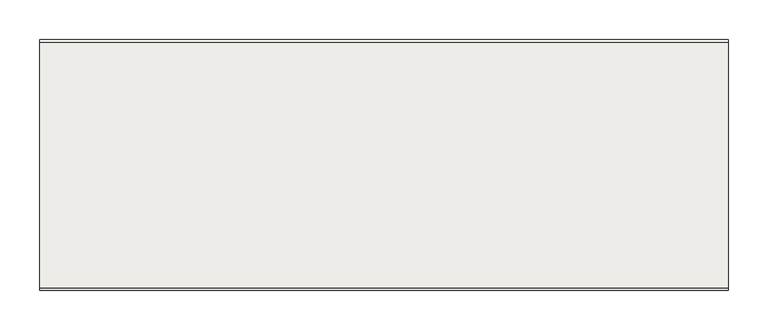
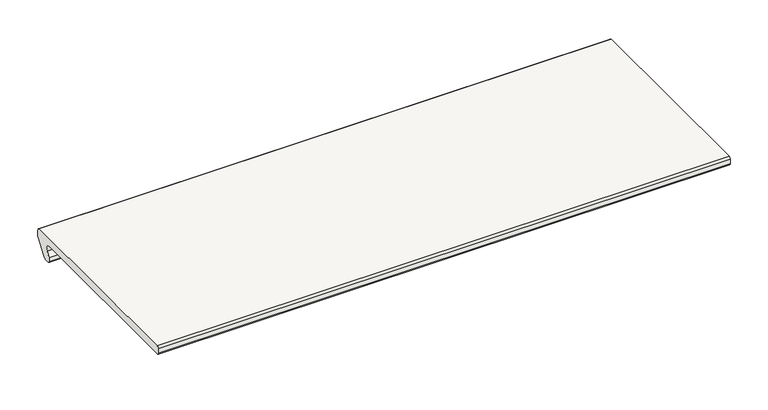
"""IFC4 building model written with IfcOpenShell, lengths in millimetres: slab geometry, ROSA GRES_J62 : Pieza J62_Tresor_Java_Anti-Slip."""

from ifc_helpers import new_model, si_unit, frame, origin, place, context, project, spatial, polyline, circle_curve, source, transform, mapped, element, save
from ifc_brep_helpers import plane_surface, cylinder_surface, revolved_surface, advanced_brep


def slab_21f2066a(model_context):
    return source(origin(), model_context, "Body", "AdvancedBrep", [
        advanced_brep(
        [(869.4769432, -317.0, 2.5), (869.4769432, -314.5, 0.0), (869.4769432, -29.6363327, 0.0), (869.4769432, -24.5931401, -10.7276172), (869.4769432, -29.4411632, -18.2354274), (869.4769432, -29.4411632, -24.4017055), (869.4769432, -26.7240304, -27.1188383), (869.4769432, -20.3835268, -27.1188383), (869.4769432, -19.4823107, -26.1230058), (869.4769432, -18.5721049, -25.1262743), (869.4769432, -17.666394, -25.1262743), (869.4769432, -14.760096, -23.1626329), (869.4769432, -0.7963935, -2.84429), (869.4769432, 0.0, -0.2793766), (869.4769432, 0.0, 8.2984975), (869.4769432, -3.9876034, 12.7946269), (869.4769432, -314.2818333, 12.7946269), (869.4769432, -316.9989661, 10.0774941), (0.0, -317.0, 2.5), (0.0, -317.0, 10.0774941), (0.0, -314.2818333, 12.7946269), (0.0, -3.9876034, 12.7946269), (0.0, 0.0, 8.2984975), (0.0, 0.0, -0.2793766), (0.0, -0.7963935, -2.84429), (0.0, -14.760096, -23.1626329), (0.0, -17.666394, -25.1262743), (0.0, -18.5721049, -25.1262743), (0.0, -19.473321, -26.1221068), (0.0, -20.3835268, -27.1188383), (0.0, -26.7240304, -27.1188383), (0.0, -29.4411632, -24.4017055), (0.0, -29.4411632, -18.2354274), (0.0, -24.5931401, -10.7276172), (0.0, -29.6363327, 0.0), (0.0, -314.5, 0.0)],
        [
            (0, 1, circle_curve(frame((869.4769432, -314.5, 2.5), z_axis=(1.0, 0.0, 0.0), x_axis=(0.0, -1.0, 0.0)), 2.5)),
            (1, 2),
            (2, 3, circle_curve(frame((869.4769432, -30.1604402, -6.7956336), z_axis=(-1.0, 0.0, 0.0), x_axis=(0.0, 0.5768912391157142, 0.8168209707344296)), 6.8158144)),
            (3, 4),
            (4, 5),
            (5, 6, circle_curve(frame((869.4769432, -26.7240304, -24.4017055), z_axis=(1.0, 0.0, 0.0), x_axis=(0.0, -1.0, 0.0)), 2.7171328)),
            (6, 7),
            (7, 8, circle_curve(frame((869.4769432, -20.3835268, -26.2131274), z_axis=(1.0, 0.0, 0.0), x_axis=(0.0, 0.0995037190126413, -0.9950371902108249)), 0.9057109)),
            (8, 9, circle_curve(frame((869.4769432, -18.5721049, -26.0319852), z_axis=(-1.0, 0.0, 0.0), x_axis=(0.0, -1.0, 0.0)), 0.9057109)),
            (9, 10),
            (10, 11, circle_curve(frame((869.4769432, -18.9818017, -20.0468365), z_axis=(1.0, 0.0, 0.0), x_axis=(0.0, -0.5938246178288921, -0.804594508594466)), 5.2469978)),
            (11, 12),
            (12, 13, circle_curve(frame((869.4769432, -4.5285547, -0.2793766), z_axis=(1.0, 0.0, 0.0), x_axis=(0.0, 0.0, -1.0)), 4.5285547)),
            (13, 14),
            (14, 15, circle_curve(frame((869.4769432, -4.5285547, 8.2984975), z_axis=(1.0, 0.0, 0.0), x_axis=(0.0, 0.9928398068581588, -0.11945341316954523)), 4.5285547)),
            (15, 16),
            (16, 17, circle_curve(frame((869.4769432, -314.2818333, 10.0774941), z_axis=(1.0, 0.0, 0.0), x_axis=(0.0, 0.0, 1.0)), 2.7171328)),
            (17, 0),
            (18, 19),
            (19, 20, circle_curve(frame((0.0, -314.2818333, 10.0774941), z_axis=(-1.0, 0.0, 0.0), x_axis=(0.0, 0.0, 1.0)), 2.7171328)),
            (20, 21),
            (21, 22, circle_curve(frame((0.0, -4.5285547, 8.2984975), z_axis=(-1.0, 0.0, 0.0), x_axis=(0.0, 0.9928398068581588, -0.11945341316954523)), 4.5285547)),
            (22, 23),
            (23, 24, circle_curve(frame((0.0, -4.5285547, -0.2793766), z_axis=(-1.0, 0.0, 0.0), x_axis=(0.0, 0.0, -1.0)), 4.5285547)),
            (24, 25),
            (25, 26, circle_curve(frame((0.0, -18.9818017, -20.0468365), z_axis=(-1.0, 0.0, 0.0), x_axis=(0.0, -0.5938246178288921, -0.804594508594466)), 5.2469978)),
            (26, 27),
            (27, 28, circle_curve(frame((0.0, -18.5721049, -26.0319852), z_axis=(1.0, 0.0, 0.0), x_axis=(0.0, -1.0, 0.0)), 0.9057109)),
            (28, 29, circle_curve(frame((0.0, -20.3835268, -26.2131274), z_axis=(-1.0, 0.0, 0.0), x_axis=(0.0, 0.0995037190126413, -0.9950371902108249)), 0.9057109)),
            (29, 30),
            (30, 31, circle_curve(frame((0.0, -26.7240304, -24.4017055), z_axis=(-1.0, 0.0, 0.0), x_axis=(0.0, -1.0, 0.0)), 2.7171328)),
            (31, 32),
            (32, 33),
            (33, 34, circle_curve(frame((0.0, -30.1604402, -6.7956336), z_axis=(1.0, 0.0, 0.0), x_axis=(0.0, 0.5768912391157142, 0.8168209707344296)), 6.8158144)),
            (34, 35),
            (35, 18, circle_curve(frame((0.0, -314.5, 2.5), z_axis=(-1.0, 0.0, 0.0), x_axis=(0.0, -1.0, 0.0)), 2.5)),
            (1, 35),
            (34, 2),
            (0, 18),
            (17, 19),
            (16, 20),
            (15, 21),
            (14, 22),
            (13, 23),
            (12, 24),
            (11, 25),
            (10, 26),
            (9, 27),
            (8, 28),
            (7, 29),
            (6, 30),
            (5, 31),
            (4, 32),
            (3, 33),
        ],
        [
            plane_surface(frame((869.4769432, -317.0, 10.0774941), z_axis=(1.0, 0.0, 0.0), x_axis=(0.0, 0.0, 1.0))),
            plane_surface(frame((0.0, -317.0, 10.0774941), z_axis=(-1.0, 0.0, 0.0), x_axis=(0.0, 0.0, -1.0))),
            plane_surface(frame((869.4769432, -172.0681664, 0.0), z_axis=(0.0, 0.0, -1.0), x_axis=(0.0, -1.0, 0.0))),
            cylinder_surface(frame((869.4769432, -314.5, 2.5), z_axis=(-1.0, 0.0, 0.0), x_axis=(0.0, -1.0, 0.0)), 2.5),
            plane_surface(frame((869.4769432, -317.0, 6.288747), z_axis=(0.0, -1.0, 0.0), x_axis=(0.0, 0.0, 1.0))),
            cylinder_surface(frame((869.4769432, -314.2818333, 10.0774941), z_axis=(-1.0, 0.0, 0.0), x_axis=(0.0, 0.0, 1.0)), 2.7171328),
            plane_surface(frame((869.4769432, -159.1347183, 12.7946269), z_axis=(0.0, 0.0, 1.0), x_axis=(0.0, 1.0, 0.0))),
            cylinder_surface(frame((869.4769432, -4.5285547, 8.2984975), z_axis=(-1.0, 0.0, 0.0), x_axis=(0.0, 0.9928398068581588, -0.11945341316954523)), 4.5285547),
            plane_surface(frame((869.4769432, 0.0, 4.0095604), z_axis=(0.0, 1.0, 0.0), x_axis=(0.0, 0.0, -1.0))),
            cylinder_surface(frame((869.4769432, -4.5285547, -0.2793766), z_axis=(-1.0, 0.0, 0.0), x_axis=(0.0, 0.0, -1.0)), 4.5285547),
            plane_surface(frame((869.4769432, -7.7782448, -13.0034614), z_axis=(0.0, 0.8241395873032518, -0.5663867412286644), x_axis=(0.0, -0.5663867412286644, -0.8241395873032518))),
            cylinder_surface(frame((869.4769432, -18.9818017, -20.0468365), z_axis=(-1.0, 0.0, 0.0), x_axis=(0.0, -0.5938246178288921, -0.804594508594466)), 5.2469978),
            plane_surface(frame((869.4769432, -18.1192494, -25.1262743), z_axis=(0.0, 1.258648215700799e-11, -1.0), x_axis=(0.0, -1.0, -1.258648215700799e-11))),
            revolved_surface(polyline([(0.0, -19.4778158, -26.0319852), (869.4769432, -19.4778158, -26.0319852)]), (869.4769432, -18.5721049, -26.0319852), (-1.0, 0.0, 0.0)),
            cylinder_surface(frame((869.4769432, -20.3835268, -26.2131274), z_axis=(-1.0, 0.0, 0.0), x_axis=(0.0, 0.0995037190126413, -0.9950371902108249)), 0.9057109),
            plane_surface(frame((869.4769432, -23.5537786, -27.1188383), z_axis=(0.0, 2.305606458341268e-12, -1.0), x_axis=(0.0, -1.0, -2.305606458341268e-12))),
            cylinder_surface(frame((869.4769432, -26.7240304, -24.4017055), z_axis=(-1.0, 0.0, 0.0), x_axis=(0.0, -1.0, 0.0)), 2.7171328),
            plane_surface(frame((869.4769432, -29.4411632, -21.3185665), z_axis=(0.0, -1.0, 0.0), x_axis=(0.0, 0.0, 1.0))),
            plane_surface(frame((869.4769432, -27.0171517, -14.4815223), z_axis=(0.0, -0.8400786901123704, 0.5424645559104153), x_axis=(0.0, 0.5424645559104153, 0.8400786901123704))),
            revolved_surface(polyline([(0.0, -26.228456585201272, -1.2283334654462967), (869.4769432, -26.228456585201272, -1.2283334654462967)]), (869.4769432, -30.1604402, -6.7956336), (-1.0, 0.0, 0.0)),
        ],
        [
            (0, [[1, 2, 3, 4, 5, 6, 7, 8, 9, 10, 11, 12, 13, 14, 15, 16, 17, 18]]),
            (1, [[19, 20, 21, 22, 23, 24, 25, 26, 27, 28, 29, 30, 31, 32, 33, 34, 35, 36]]),
            (2, [[37, -35, 38, -2]]),
            (3, [[39, -36, -37, -1]]),
            (4, [[40, -19, -39, -18]]),
            (5, [[41, -20, -40, -17]]),
            (6, [[42, -21, -41, -16]]),
            (7, [[43, -22, -42, -15]]),
            (8, [[44, -23, -43, -14]]),
            (9, [[45, -24, -44, -13]]),
            (10, [[46, -25, -45, -12]]),
            (11, [[47, -26, -46, -11]]),
            (12, [[48, -27, -47, -10]]),
            (13, [[49, -28, -48, -9]]),
            (14, [[50, -29, -49, -8]]),
            (15, [[51, -30, -50, -7]]),
            (16, [[52, -31, -51, -6]]),
            (17, [[53, -32, -52, -5]]),
            (18, [[54, -33, -53, -4]]),
            (19, [[-38, -34, -54, -3]]),
        ],
    ),
    ])


if __name__ == "__main__":
    model = new_model("IFC4")
    model_context = context("Model", 3, world=origin())
    ifc_project = project(units=[si_unit("LENGTHUNIT", "METRE", prefix="MILLI")], contexts=[model_context])
    site = spatial("IfcSite", under=ifc_project)
    building = spatial("IfcBuilding", under=site)
    placement = place(None, origin())
    slab_shape = slab_21f2066a(model_context)
    element("IfcSlab", 1, ObjectType="ROSA GRES_J62 : Pieza J62_Tresor_Java_Anti-Slip", at=placement, inside=building, context=model_context, shape_type="MappedRepresentation", body=[
        mapped(slab_shape, transform((0.0, 0.0, 0.0), x_axis=(1.0, 0.0, 0.0), y_axis=(0.0, 1.0, 0.0), z_axis=(0.0, 0.0, 1.0))),
    ])
    save(model, "model.ifc")
